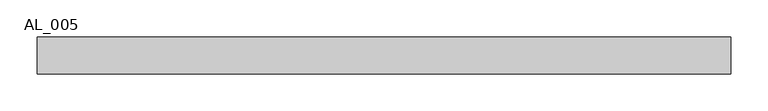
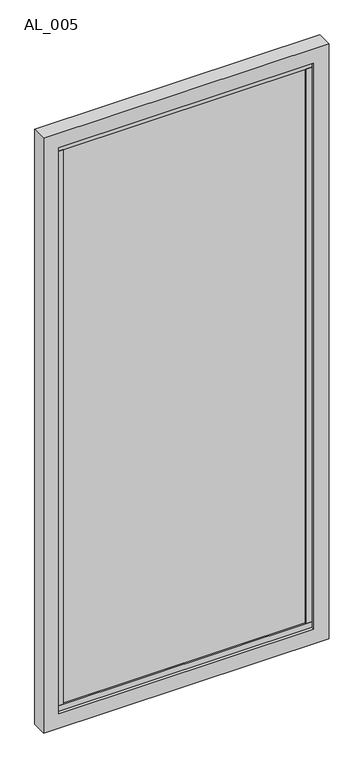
"""IFC4 building model written with IfcOpenShell, lengths in millimetres: plate geometry, TRP_CP_ARC_PF_RE : AL_005."""

from ifc_helpers import new_model, si_unit, frame, origin, place, context, project, spatial, polyline, outline, extrude, source, transform, mapped, element, save


def al_005_ec5b3190(model_context):
    return source(origin(), model_context, "Body", "SweptSolid", [
        extrude(outline(polyline([(398.5110509, -10.0), (-398.5110509, -10.0), (-398.5110509, 10.0), (398.5110509, 10.0), (398.5110509, -10.0)])), frame((0.0, 0.0, 70.0), z_axis=(0.0, 0.0, 1.0), x_axis=(1.0, 0.0, 0.0)), (0.0, 0.0, 1.0), 1924.0),
        extrude(outline(polyline([(418.5110509, -15.0), (398.5110509, -15.0), (398.5110509, 15.0), (418.5110509, 15.0), (418.5110509, -15.0)])), frame((0.0, 0.0, 70.0), z_axis=(0.0, 0.0, 1.0), x_axis=(1.0, 0.0, 0.0)), (0.0, 0.0, 1.0), 1924.0),
        extrude(outline(polyline([(-398.5110509, -15.0), (-418.5110509, -15.0), (-418.5110509, 15.0), (-398.5110509, 15.0), (-398.5110509, -15.0)])), frame((0.0, 0.0, 70.0), z_axis=(0.0, 0.0, 1.0), x_axis=(1.0, 0.0, 0.0)), (0.0, 0.0, 1.0), 1924.0),
        extrude(outline(polyline([(418.5110509, -15.0), (-418.5110509, -15.0), (-418.5110509, 15.0), (418.5110509, 15.0), (418.5110509, -15.0)])), frame((0.0, 0.0, 50.0), z_axis=(0.0, 0.0, 1.0), x_axis=(1.0, 0.0, 0.0)), (0.0, 0.0, 1.0), 20.0),
        extrude(outline(polyline([(418.5110509, -15.0), (-418.5110509, -15.0), (-418.5110509, 15.0), (418.5110509, 15.0), (418.5110509, -15.0)])), frame((0.0, 0.0, 1994.0), z_axis=(0.0, 0.0, 1.0), x_axis=(1.0, 0.0, 0.0)), (0.0, 0.0, 1.0), 20.0),
        extrude(outline(polyline([(2064.0, 468.5110509), (2064.0, -468.5110509), (0.0, -468.5110509), (0.0, 468.5110509), (2064.0, 468.5110509)]), holes=[polyline([(50.0, 418.5110509), (50.0, -418.5110509), (2014.0, -418.5110509), (2014.0, 418.5110509), (50.0, 418.5110509)])]), frame((0.0, -25.0, 0.0), z_axis=(0.0, 1.0, 0.0), x_axis=(0.0, 0.0, 1.0)), (0.0, 0.0, 1.0), 50.0),
    ])


if __name__ == "__main__":
    model = new_model("IFC4")
    model_context = context("Model", 3, world=origin())
    ifc_project = project(units=[si_unit("LENGTHUNIT", "METRE", prefix="MILLI")], contexts=[model_context])
    site = spatial("IfcSite", under=ifc_project)
    building = spatial("IfcBuilding", under=site)
    placement = place(None, origin())
    al_005_shape = al_005_ec5b3190(model_context)
    element("IfcPlate", 1, ObjectType="TRP_CP_ARC_PF_RE : AL_005", at=placement, inside=building, context=model_context, shape_type="MappedRepresentation", body=[
        mapped(al_005_shape, transform((0.0, 0.0, 0.0), x_axis=(1.0, 0.0, 0.0), y_axis=(0.0, 1.0, 0.0), z_axis=(0.0, 0.0, 1.0))),
    ])
    save(model, "model.ifc")
